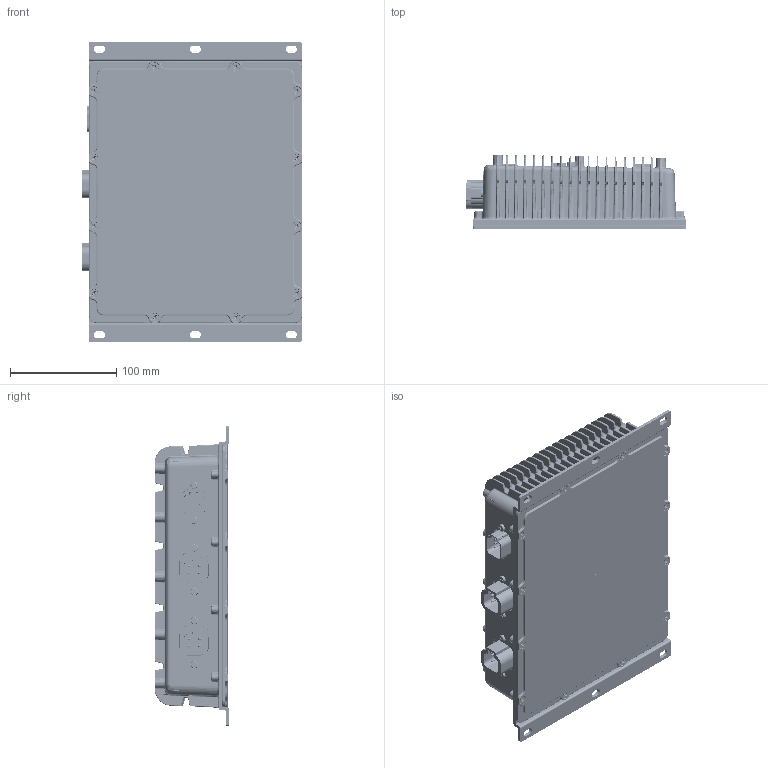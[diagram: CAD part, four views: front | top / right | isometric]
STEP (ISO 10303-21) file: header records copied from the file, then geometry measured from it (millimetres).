
FILE_DESCRIPTION(/* description */ ('12Vdc to 25Vdc Converter '),/* implementation_level */ '2;1');
FILE_NAME(/* name */ 'C:\Users\azhao\Documents\19017\MECHANICAL\Rev 1\AX083800-MD.stp',/* time_stamp */ '2020-08-19T13:50:43-04:00',/* author */ ('azhao'),/* organization */ (''),/* preprocessor_version */ 'ST-DEVELOPER v17',/* originating_system */ 'Autodesk Inventor 2018',/* authorisation */ '');
FILE_SCHEMA (('AUTOMOTIVE_DESIGN { 1 0 10303 214 3 1 1 }'));
Products named in the file (24): AX083800; LBM-AX081800-01-R3 for STEP; MG-19017-01; CTP-19017-01-R1; MG-19017-01_1; DEUT DT13-6P; DEUT DT13-6P_1; DT15-4P gasket; DEUT DTP13-4P; DEUT DTP13-4P_1; DTP15-4P gasket; DTP13-4P base; Fixture; SL-M4-2ZI-PennEngineering-3D-05-20-2020; TPS-4mm-6-PennEngineering-3D-05-20-2020; CTP-19017-02-R1; PL-6-19X500SSPPU; MS-M4CX10SSPFU; GAS-19017-01; LBM-SERIAL-01-R2; MS-M4CX6SSPPU; LBM-AX083800-04-R1 OUT; LBM-AX083800-02-R1 IN +; LBM-AX083800-03-R1 IN -
Assembly tree (48 placements, depth 5):
  AX083800
    LBM-AX081800-01-R3 for STEP
    MG-19017-01
      CTP-19017-01-R1
      MG-19017-01_1
        DEUT DT13-6P
          DEUT DT13-6P_1
          DT15-4P gasket
        DEUT DTP13-4P  x2
          DEUT DTP13-4P_1
          DTP15-4P gasket
          DTP13-4P base
        LBM-SERIAL-01-R2
        Fixture
        SL-M4-2ZI-PennEngineering-3D-05-20-2020  x2
        TPS-4mm-6-PennEngineering-3D-05-20-2020  x2
      CTP-19017-02-R1
      PL-6-19X500SSPPU  x6
      MS-M4CX10SSPFU  x12
      GAS-19017-01
      LBM-SERIAL-01-R2
      MS-M4CX6SSPPU  x6
    LBM-AX083800-04-R1 OUT
    LBM-AX083800-02-R1 IN +
    LBM-AX083800-03-R1 IN -
Bounding box: 206.71 x 69.76 x 281.87 mm (x, y, z)
Volume: 723179 mm3; surface area: 501066.8 mm2
Topology: 52 solids, 52 shells, 9060 faces, 22119 edges, 13110 vertices
Faces by surface type: cylinder 2999, plane 2445, bspline 1934, torus 625, sphere 538, cone 519
Full cylindrical faces by diameter (mm): 1.575 x30, 2.362 x4, 2.388 x32, 2.794 x15, 3.099 x8, 3.242 x2, 3.251 x18, 3.302 x4, 4 x147, 4.496 x12, 4.5 x2, 4.554 x4, 5.06 x2, 5.38 x2, 5.41 x1, 6.12 x2, 6.502 x4, 6.604 x7, 6.625 x2, 6.731 x4, 6.858 x6, 7.87 x2, 8 x6, 8.179 x2, 8.306 x4
Entity records: 283394 total; most frequent: CARTESIAN_POINT 106158, ORIENTED_EDGE 37108, DIRECTION 36128, EDGE_CURVE 18554, AXIS2_PLACEMENT_3D 14062, VERTEX_POINT 10885, EDGE_LOOP 8145, LINE 8004
